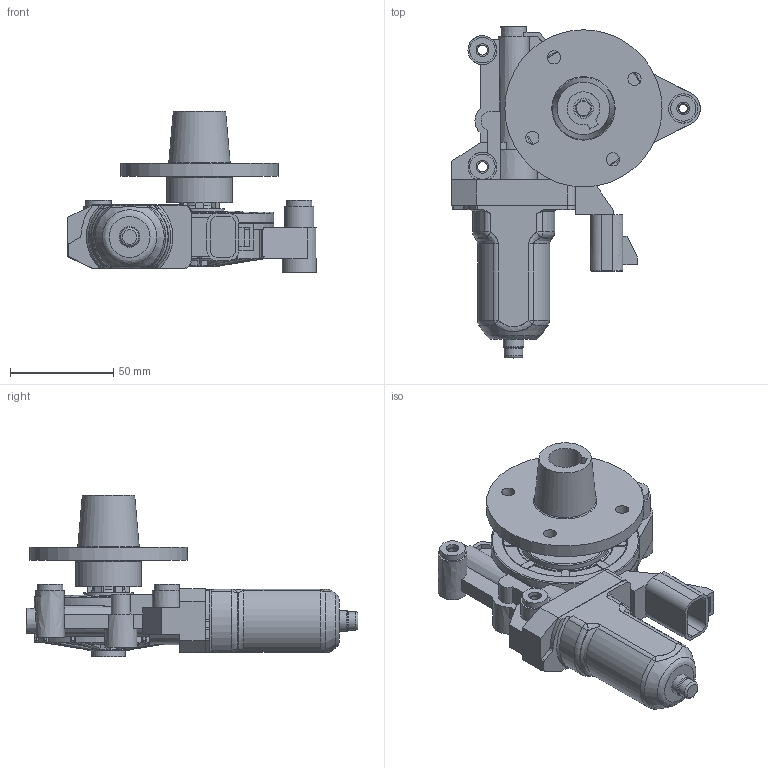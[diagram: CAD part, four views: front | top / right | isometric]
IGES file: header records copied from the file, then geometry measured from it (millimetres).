
Global section: file name: No Iges File Name specified; native system: AutoDesk Inventor R6.0; preprocessor: AutoDesk Inventor Iges Exporter R6.0; author: No Author specified; organization: No Organization specified; date: 20060129.205434; units: inch
Bounding box: 120.53 x 161 x 78.56 mm (x, y, z)
Surface area: 61911.8 mm2 (no closed solid volume)
Topology: 0 solids, 0 shells, 705 faces, 3652 edges, 3574 vertices
Faces by surface type: plane 316, revolution 304, bspline 85
